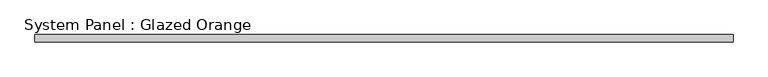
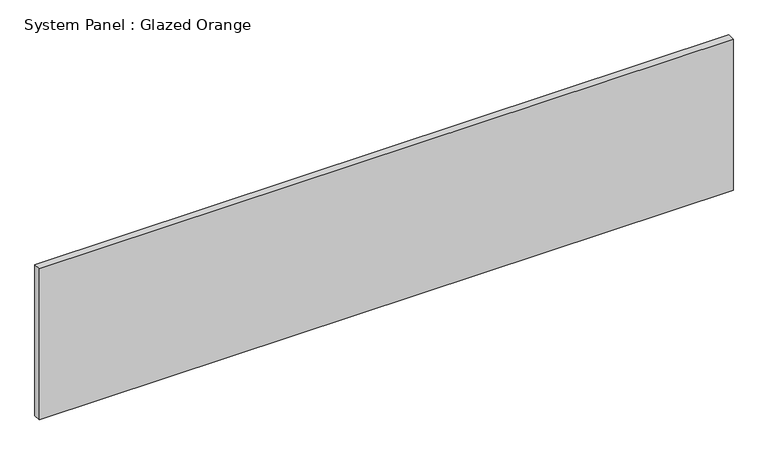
"""IFC4 building model written with IfcOpenShell, lengths in millimetres: plate geometry, System Panel : Glazed Orange."""

import ifcopenshell
import ifcopenshell.guid

model = None  # the IFC model being written
_history = None  # IfcOwnerHistory: only IFC2X3 demands one
_inside = {}  # id of a spatial element -> (the spatial element, [elements in it])
_under = {}  # id of a project, library or spatial element -> (it, [spatial elements below it])
_declared = {}  # id of a project -> (the project, [libraries it declares])
_typed = {}  # id of a type object -> (the type object, [elements of that type])
_made_of = {}  # id of a material, layer set ... -> (it, [elements and type objects made of it])


def new_model(schema):
    """Start an empty IFC model of exactly this schema.

    Asked for "IFC4X3", IfcOpenShell would pick the latest addendum, in which some entities
    have other attributes; the version numbers below select the first issue.
    IFC2X3 requires an IfcOwnerHistory on every rooted entity: one is made here for all.
    """
    global model, _history
    if schema == "IFC4X3":
        model = ifcopenshell.file(schema_version=(4, 3, 0, 0))
    else:
        model = ifcopenshell.file(schema=schema)
    _inside.clear()
    _under.clear()
    _declared.clear()
    _typed.clear()
    _made_of.clear()
    _history = None
    if model.schema == "IFC2X3":
        org = make("IfcOrganization", Name="unknown")
        user = make(
            "IfcPersonAndOrganization",
            ThePerson=make("IfcPerson", FamilyName="unknown"),
            TheOrganization=org,
        )
        app = make(
            "IfcApplication",
            ApplicationDeveloper=org,
            Version="unknown",
            ApplicationFullName="unknown",
            ApplicationIdentifier="unknown",
        )
        _history = make(
            "IfcOwnerHistory",
            OwningUser=user,
            OwningApplication=app,
            ChangeAction="ADDED",
            CreationDate=0,
        )
    return model


def make(cls, **values):
    """One entity of the class cls with the attributes given. An attribute that is None is left unset."""
    return model.create_entity(
        cls, **{name: value for name, value in values.items() if value is not None}
    )


def rooted(cls, **values):
    """An entity with a GlobalId (a new one), such as an element, a storey or a relation."""
    return make(cls, GlobalId=ifcopenshell.guid.new(), OwnerHistory=_history, **values)


def si_unit(unit_type, name, prefix=None):
    """IfcSIUnit, for example si_unit("LENGTHUNIT", "METRE", prefix="MILLI")."""
    return make("IfcSIUnit", UnitType=unit_type, Prefix=prefix, Name=name)


def assignment(units):
    """IfcUnitAssignment: the units of a project."""
    return None if units is None else make("IfcUnitAssignment", Units=units)


def point(xyz):
    """IfcCartesianPoint."""
    return None if xyz is None else make("IfcCartesianPoint", Coordinates=xyz)


def direction(xyz):
    """IfcDirection."""
    return None if xyz is None else make("IfcDirection", DirectionRatios=xyz)


def frame(location, z_axis=None, x_axis=None):
    """IfcAxis2Placement3D, a coordinate frame: its origin and axes. An axis left out is left unset."""
    return make(
        "IfcAxis2Placement3D",
        Location=point(location),
        Axis=direction(z_axis),
        RefDirection=direction(x_axis),
    )


def origin():
    """The frame at (0, 0, 0) with its axes left unset."""
    return frame((0.0, 0.0, 0.0))


def origin_with_axes():
    """The frame at (0, 0, 0) with the z axis (0, 0, 1) and the x axis (1, 0, 0) written out."""
    return frame((0.0, 0.0, 0.0), z_axis=(0.0, 0.0, 1.0), x_axis=(1.0, 0.0, 0.0))


def place(relative_to, where):
    """IfcLocalPlacement: puts the frame where relative to a parent placement (None: the world)."""
    return make(
        "IfcLocalPlacement", PlacementRelTo=relative_to, RelativePlacement=where
    )


def context(
    kind, dimensions, precision=None, world=None, true_north=None, identifier=None
):
    """IfcGeometricRepresentationContext, for example the 3D "Model" context."""
    return make(
        "IfcGeometricRepresentationContext",
        ContextIdentifier=identifier,
        ContextType=kind,
        CoordinateSpaceDimension=dimensions,
        Precision=precision,
        WorldCoordinateSystem=world,
        TrueNorth=true_north,
    )


def project(units=None, contexts=None):
    """IfcProject with its units and contexts."""
    return rooted(
        "IfcProject",
        Name="project",
        RepresentationContexts=contexts,
        UnitsInContext=assignment(units),
    )


def spatial(cls, under=None, at=None, **own):
    """A site, building, storey or space (cls), placed at a placement, below another one or the project."""
    s = rooted(cls, ObjectPlacement=at, **own)
    if under is not None:
        _under.setdefault(under.id(), (under, []))[1].append(s)
    return s


def polyline(points):
    """IfcPolyline through the points."""
    return make("IfcPolyline", Points=[point(p) for p in points])


def outline(outer, holes=None, kind="AREA"):
    """IfcArbitraryClosedProfileDef: a profile drawn as a closed curve; with holes, ...WithVoids."""
    if holes is None:
        return make("IfcArbitraryClosedProfileDef", ProfileType=kind, OuterCurve=outer)
    return make(
        "IfcArbitraryProfileDefWithVoids",
        ProfileType=kind,
        OuterCurve=outer,
        InnerCurves=holes,
    )


def extrude(swept, where, along, depth):
    """IfcExtrudedAreaSolid: the profile swept, set in the frame where, extruded along a direction by depth."""
    return make(
        "IfcExtrudedAreaSolid",
        SweptArea=swept,
        Position=where,
        ExtrudedDirection=direction(along),
        Depth=depth,
    )


def shape(context_of_items, identifier, shape_type, items):
    """IfcShapeRepresentation: the items that make up one representation, for example the "Body"."""
    return make(
        "IfcShapeRepresentation",
        ContextOfItems=context_of_items,
        RepresentationIdentifier=identifier,
        RepresentationType=shape_type,
        Items=items,
    )


def source(mapping_origin, context_of_items, identifier, shape_type, items):
    """IfcRepresentationMap: a shape defined once, which mapped items show again and again."""
    return make(
        "IfcRepresentationMap",
        MappingOrigin=mapping_origin,
        MappedRepresentation=shape(context_of_items, identifier, shape_type, items),
    )


def transform(
    local_origin,
    x_axis=None,
    y_axis=None,
    z_axis=None,
    scale=None,
    scale2=None,
    scale3=None,
    uniform=True,
):
    """IfcCartesianTransformationOperator3D, or its non-uniform kind. x_axis, y_axis, z_axis: its Axis1, 2, 3."""
    if uniform:
        return make(
            "IfcCartesianTransformationOperator3D",
            Axis1=direction(x_axis),
            Axis2=direction(y_axis),
            LocalOrigin=point(local_origin),
            Scale=scale,
            Axis3=direction(z_axis),
        )
    return make(
        "IfcCartesianTransformationOperator3DnonUniform",
        Axis1=direction(x_axis),
        Axis2=direction(y_axis),
        LocalOrigin=point(local_origin),
        Scale=scale,
        Axis3=direction(z_axis),
        Scale2=scale2,
        Scale3=scale3,
    )


def mapped(mapping_source, mapping_target):
    """IfcMappedItem: shows the shape of a source again, moved by a transform."""
    return make(
        "IfcMappedItem", MappingSource=mapping_source, MappingTarget=mapping_target
    )


def made_of(thing, what):
    """Note that an element or type object is made of a material, layer set ...; save() writes the relation."""
    if what is not None:
        _made_of.setdefault(what.id(), (what, []))[1].append(thing)
    return thing


def element(
    cls,
    number,
    at=None,
    inside=None,
    cuts=None,
    type_object=None,
    material=None,
    context=None,
    identifier="Body",
    shape_type=None,
    held_by="IfcProductDefinitionShape",
    body=None,
    shapes=None,
    **own,
):
    """One element of the class cls, such as IfcWall. Its Tag is "e" and its number.

    at: its placement. inside: the storey or other place that contains it. cuts: it is an
    opening in that element (IfcRelVoidsElement). A single representation is given by context,
    identifier, shape_type and body (its items); several are given by shapes. held_by: the class
    of the entity that holds the representations. save() writes the other relations.
    """
    e = rooted(cls, Tag="e%d" % number, ObjectPlacement=at, **own)
    if body is not None:
        shapes = [shape(context, identifier, shape_type, body)]
    if shapes is not None:
        e.Representation = make(held_by, Representations=shapes)
    if inside is not None:
        _inside.setdefault(inside.id(), (inside, []))[1].append(e)
    if cuts is not None:
        rooted(
            "IfcRelVoidsElement", RelatingBuildingElement=cuts, RelatedOpeningElement=e
        )
    if type_object is not None:
        _typed.setdefault(type_object.id(), (type_object, []))[1].append(e)
    return made_of(e, material)


def aggregate(whole, parts):
    """IfcRelAggregates: a whole, such as a stair, and the parts it consists of."""
    return rooted("IfcRelAggregates", RelatingObject=whole, RelatedObjects=parts)


def save(model, path):
    """Write the relations noted so far, then the file.

    IfcRelAggregates (storeys below a building ...), IfcRelContainedInSpatialStructure (elements
    in a storey), IfcRelDefinesByType, IfcRelAssociatesMaterial and IfcRelDeclares: one each for
    every whole, place, type object, material and project.
    """
    for whole, parts in _under.values():
        aggregate(whole, parts)
    for where, things in _inside.values():
        rooted(
            "IfcRelContainedInSpatialStructure",
            RelatedElements=things,
            RelatingStructure=where,
        )
    for kind, things in _typed.values():
        rooted("IfcRelDefinesByType", RelatedObjects=things, RelatingType=kind)
    for what, things in _made_of.values():
        rooted("IfcRelAssociatesMaterial", RelatedObjects=things, RelatingMaterial=what)
    for by, libraries in _declared.values():
        rooted("IfcRelDeclares", RelatingContext=by, RelatedDefinitions=libraries)
    model.write(path)


def system_panel_glazed_orange_fa7891ff(model_context):
    return source(origin(), model_context, "Body", "SweptSolid", [
        extrude(outline(polyline([(1187.45, 19.05), (-1187.45, 19.05), (-1187.45, 44.45), (1187.45, 44.45), (1187.45, 19.05)])), origin_with_axes(), (0.0, 0.0, 1.0), 546.1),
    ])


if __name__ == "__main__":
    model = new_model("IFC4")
    model_context = context("Model", 3, world=origin())
    ifc_project = project(units=[si_unit("LENGTHUNIT", "METRE", prefix="MILLI")], contexts=[model_context])
    site = spatial("IfcSite", under=ifc_project)
    building = spatial("IfcBuilding", under=site)
    placement = place(None, origin())
    system_panel_glazed_orange_shape = system_panel_glazed_orange_fa7891ff(model_context)
    element("IfcPlate", 1, ObjectType="System Panel : Glazed Orange", at=placement, inside=building, context=model_context, shape_type="MappedRepresentation", body=[
        mapped(system_panel_glazed_orange_shape, transform((0.0, 0.0, 0.0), x_axis=(1.0, 0.0, 0.0), y_axis=(0.0, 1.0, 0.0), z_axis=(0.0, 0.0, 1.0))),
    ])
    save(model, "model.ifc")
